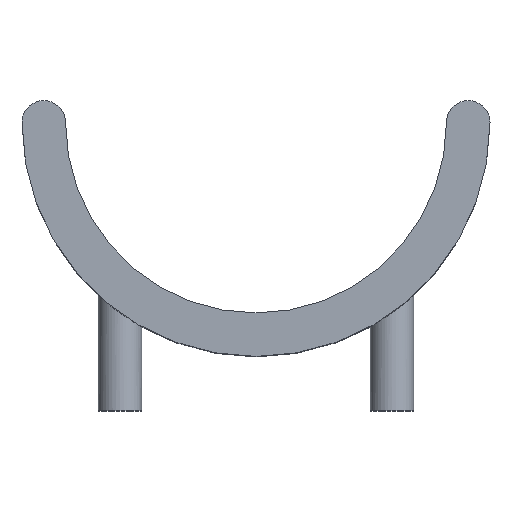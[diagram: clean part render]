
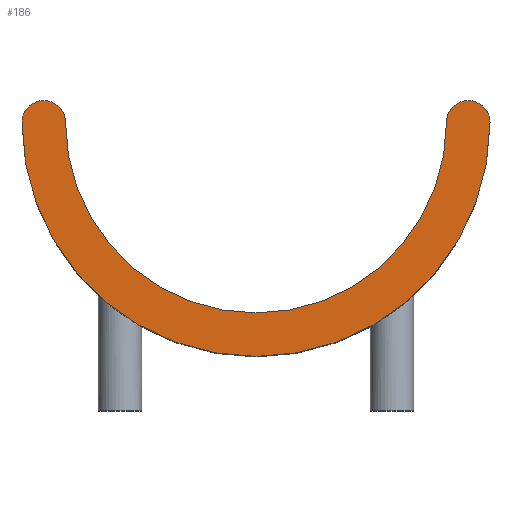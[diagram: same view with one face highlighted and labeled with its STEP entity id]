
A CAD part, top view. The second image highlights one B-rep face of the part: STEP entity #186.
In plain terms, the highlighted planar face has unit normal (0, 0, 1).
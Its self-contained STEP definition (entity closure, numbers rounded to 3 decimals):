
#56=FACE_OUTER_BOUND('',#78,.T.);
#78=EDGE_LOOP('',(#163,#164,#165,#166));
#84=CIRCLE('',#203,35.);
#86=CIRCLE('',#206,4.);
#88=CIRCLE('',#209,43.);
#90=CIRCLE('',#212,4.);
#101=VERTEX_POINT('',#434);
#102=VERTEX_POINT('',#436);
#104=VERTEX_POINT('',#442);
#106=VERTEX_POINT('',#448);
#117=EDGE_CURVE('',#102,#101,#84,.T.);
#120=EDGE_CURVE('',#104,#102,#86,.T.);
#123=EDGE_CURVE('',#106,#104,#88,.T.);
#126=EDGE_CURVE('',#101,#106,#90,.T.);
#163=ORIENTED_EDGE('',*,*,#117,.T.);
#164=ORIENTED_EDGE('',*,*,#126,.T.);
#165=ORIENTED_EDGE('',*,*,#123,.T.);
#166=ORIENTED_EDGE('',*,*,#120,.T.);
#172=PLANE('',#214);
#186=ADVANCED_FACE('',(#56),#172,.T.);
#203=AXIS2_PLACEMENT_3D('',#437,#246,#247);
#206=AXIS2_PLACEMENT_3D('',#443,#253,#254);
#209=AXIS2_PLACEMENT_3D('',#449,#260,#261);
#212=AXIS2_PLACEMENT_3D('',#453,#267,#268);
#214=AXIS2_PLACEMENT_3D('',#455,#271,#272);
#246=DIRECTION('center_axis',(0.,0.,-1.));
#247=DIRECTION('ref_axis',(-1.,0.,0.));
#253=DIRECTION('center_axis',(0.,0.,1.));
#254=DIRECTION('ref_axis',(-1.,0.,0.));
#260=DIRECTION('center_axis',(0.,0.,1.));
#261=DIRECTION('ref_axis',(1.,0.,0.));
#267=DIRECTION('center_axis',(0.,0.,1.));
#268=DIRECTION('ref_axis',(-1.,0.,0.));
#271=DIRECTION('center_axis',(0.,0.,1.));
#272=DIRECTION('ref_axis',(1.,0.,0.));
#434=CARTESIAN_POINT('',(-35.,0.,55.));
#436=CARTESIAN_POINT('',(35.,0.,55.));
#437=CARTESIAN_POINT('Origin',(0.,0.,55.));
#442=CARTESIAN_POINT('',(43.,0.,55.));
#443=CARTESIAN_POINT('Origin',(39.,0.,55.));
#448=CARTESIAN_POINT('',(-43.,0.,55.));
#449=CARTESIAN_POINT('Origin',(0.,0.,55.));
#453=CARTESIAN_POINT('Origin',(-39.,0.,55.));
#455=CARTESIAN_POINT('Origin',(0.,-22.519,55.));
